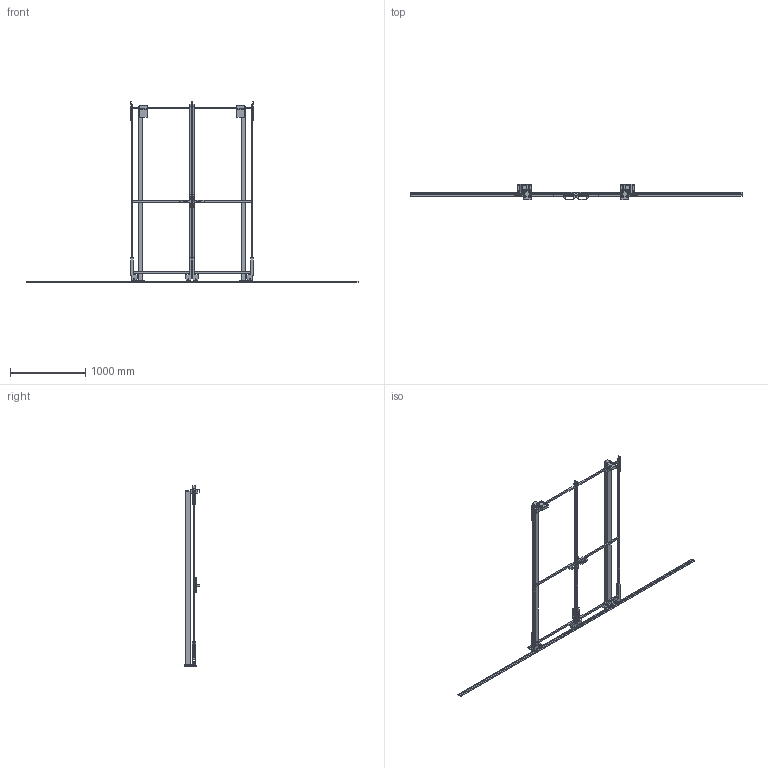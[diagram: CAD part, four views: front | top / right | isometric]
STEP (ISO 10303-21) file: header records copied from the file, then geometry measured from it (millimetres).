
FILE_DESCRIPTION(/* description */ (''),/* implementation_level */ '2;1');
FILE_NAME(/* name */ 'C:\SafeGuarding\ELABORATI\Drawing4_2025-05-14-13-42-06.stp',/* time_stamp */ '2025-05-14T13:42:07+02:00',/* author */ ('admin'),/* organization */ (''),/* preprocessor_version */ 'ST-DEVELOPER v18.1',/* originating_system */ 'AutoCAD Mechanical',/* authorisation */ '');
FILE_SCHEMA (('AUTOMOTIVE_DESIGN { 1 0 10303 214 3 1 1 }'));
Length unit declared in the file: millimetre
Products named in the file (3): Product; R_VFPA.REPE20.08002200; P_VFMA.V260SDU.2320
Assembly tree (4 placements, depth 2):
  Product
    R_VFPA.REPE20.08002200  x2
    P_VFMA.V260SDU.2320  x2
Bounding box: 4400 x 211.4 x 2390 mm (x, y, z)
Volume: 25046517.8 mm3; surface area: 3621671.8 mm2
Topology: 52 solids, 74 shells, 504 faces, 1538 edges, 1420 vertices
Faces by surface type: plane 440, cylinder 56, cone 8
Full cylindrical faces by diameter (mm): 9 x8, 11 x8, 13 x8, 14 x4, 18 x8, 30 x4, 36 x8, 58 x8
Entity records: 15169 total; most frequent: CARTESIAN_POINT 3181, DIRECTION 2292, ORIENTED_EDGE 2224, EDGE_CURVE 1210, LINE 982, VECTOR 982, VERTEX_POINT 888, AXIS2_PLACEMENT_3D 655
